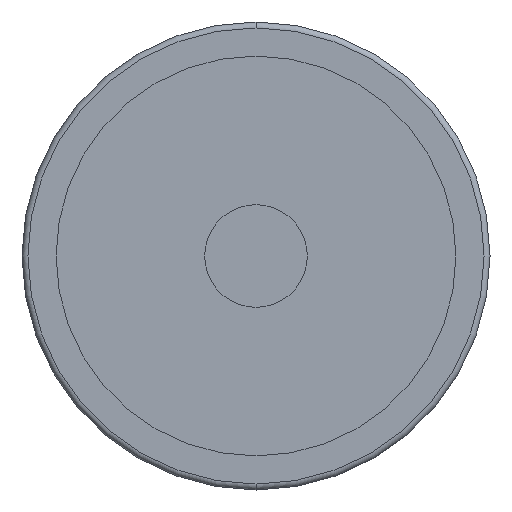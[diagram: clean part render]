
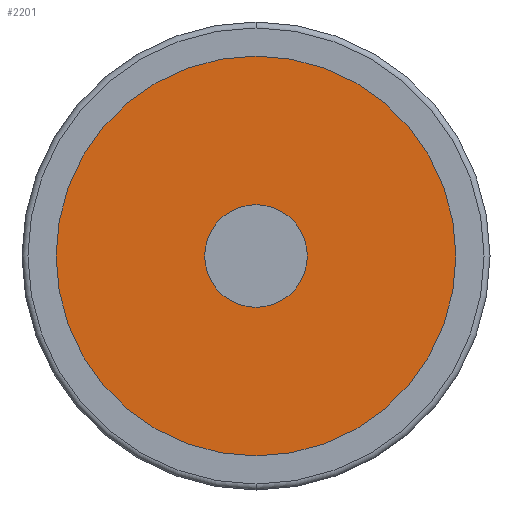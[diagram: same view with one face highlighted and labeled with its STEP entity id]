
A CAD part, front view. The second image highlights one B-rep face of the part: STEP entity #2201.
In plain terms, the highlighted planar face has unit normal (0, -1, 0).
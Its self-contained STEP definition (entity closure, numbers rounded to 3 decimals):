
#52 = CARTESIAN_POINT ( 'NONE',  ( -8., 4.5, 0. ) ) ;
#82 = VERTEX_POINT ( 'NONE', #1665 ) ;
#152 = DIRECTION ( 'NONE',  ( 0., -1., 0. ) ) ;
#244 = VERTEX_POINT ( 'NONE', #52 ) ;
#265 = AXIS2_PLACEMENT_3D ( 'NONE', #1184, #1710, #349 ) ;
#349 = DIRECTION ( 'NONE',  ( 1., 0., 0. ) ) ;
#433 = DIRECTION ( 'NONE',  ( 1., 0., 0. ) ) ;
#444 = EDGE_CURVE ( 'NONE', #897, #796, #1626, .T. ) ;
#450 = DIRECTION ( 'NONE',  ( 0., -1., 0. ) ) ;
#470 = CARTESIAN_POINT ( 'NONE',  ( -34.25, 4.5, 0. ) ) ;
#659 = EDGE_CURVE ( 'NONE', #796, #897, #1239, .T. ) ;
#707 = AXIS2_PLACEMENT_3D ( 'NONE', #2144, #1198, #433 ) ;
#724 = ORIENTED_EDGE ( 'NONE', *, *, #444, .T. ) ;
#772 = DIRECTION ( 'NONE',  ( 1., 0., 0. ) ) ;
#796 = VERTEX_POINT ( 'NONE', #1683 ) ;
#897 = VERTEX_POINT ( 'NONE', #974 ) ;
#959 = EDGE_CURVE ( 'NONE', #82, #244, #2464, .T. ) ;
#974 = CARTESIAN_POINT ( 'NONE',  ( 34.25, 4.5, 0. ) ) ;
#1064 = CARTESIAN_POINT ( 'NONE',  ( 0., 4.5, 0. ) ) ;
#1184 = CARTESIAN_POINT ( 'NONE',  ( 0., 4.5, 0. ) ) ;
#1198 = DIRECTION ( 'NONE',  ( 0., -1., 0. ) ) ;
#1239 = CIRCLE ( 'NONE', #707, 34.25 ) ;
#1331 = ORIENTED_EDGE ( 'NONE', *, *, #1676, .F. ) ;
#1422 = FACE_BOUND ( 'NONE', #2237, .T. ) ;
#1444 = CIRCLE ( 'NONE', #265, 8. ) ;
#1485 = ORIENTED_EDGE ( 'NONE', *, *, #659, .T. ) ;
#1608 = PLANE ( 'NONE',  #2265 ) ;
#1626 = CIRCLE ( 'NONE', #2254, 34.25 ) ;
#1665 = CARTESIAN_POINT ( 'NONE',  ( 8., 4.5, 0. ) ) ;
#1676 = EDGE_CURVE ( 'NONE', #244, #82, #1444, .T. ) ;
#1683 = CARTESIAN_POINT ( 'NONE',  ( -34.25, 4.5, 0. ) ) ;
#1710 = DIRECTION ( 'NONE',  ( 0., -1., 0. ) ) ;
#1773 = DIRECTION ( 'NONE',  ( 0., -1., 0. ) ) ;
#1774 = EDGE_LOOP ( 'NONE', ( #1485, #724 ) ) ;
#1783 = FACE_OUTER_BOUND ( 'NONE', #1774, .T. ) ;
#1869 = ORIENTED_EDGE ( 'NONE', *, *, #959, .F. ) ;
#1971 = DIRECTION ( 'NONE',  ( 1., 0., 0. ) ) ;
#2144 = CARTESIAN_POINT ( 'NONE',  ( 0., 4.5, 0. ) ) ;
#2166 = DIRECTION ( 'NONE',  ( 1., 0., 0. ) ) ;
#2201 = ADVANCED_FACE ( 'NONE', ( #1783, #1422 ), #1608, .T. ) ;
#2222 = AXIS2_PLACEMENT_3D ( 'NONE', #1064, #1773, #1971 ) ;
#2237 = EDGE_LOOP ( 'NONE', ( #1869, #1331 ) ) ;
#2252 = CARTESIAN_POINT ( 'NONE',  ( 0., 4.5, 0. ) ) ;
#2254 = AXIS2_PLACEMENT_3D ( 'NONE', #2252, #152, #772 ) ;
#2265 = AXIS2_PLACEMENT_3D ( 'NONE', #470, #450, #2166 ) ;
#2464 = CIRCLE ( 'NONE', #2222, 8. ) ;
